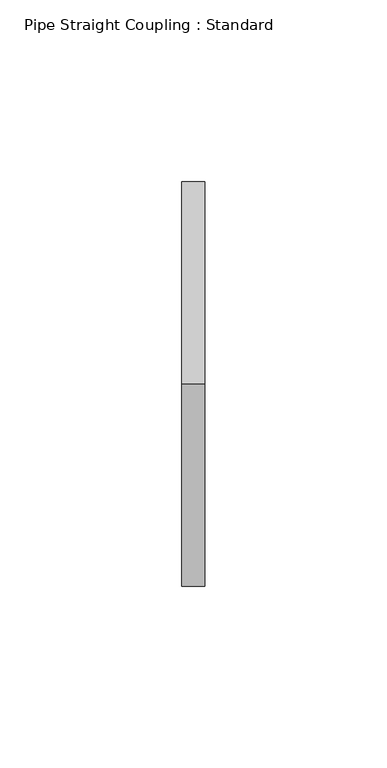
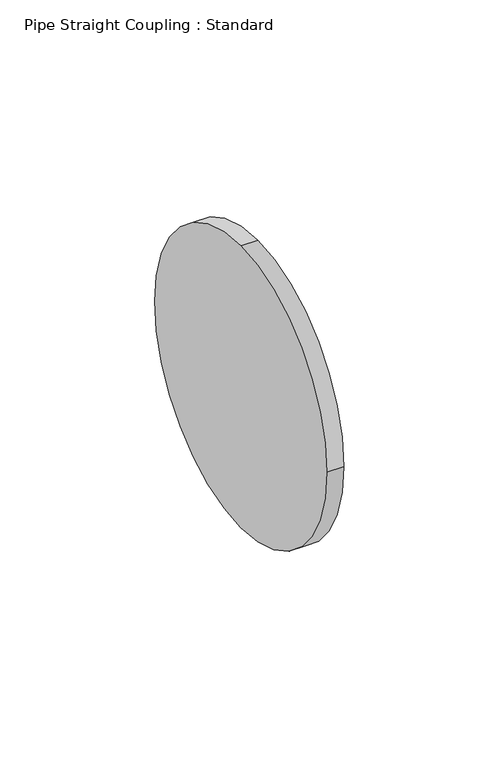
"""IFC4 building model written with IfcOpenShell, lengths in millimetres: pipe fitting geometry, Pipe Straight Coupling : Standard."""

from ifc_helpers import new_model, si_unit, point, frame, origin, origin_2d, place, context, project, spatial, circle_curve, trimmed, segment, composite_curve, outline, extrude, source, transform, mapped, element, save


def pipe_straight_coupling_standard_a74dfd1f(model_context):
    return source(origin(), model_context, "Body", "SweptSolid", [
        extrude(outline(composite_curve([segment(trimmed(circle_curve(origin_2d(), 55.5625), [point((0.0, 55.5625))], [point((55.5625, 0.0))], False, "CARTESIAN"), True, "CONTINUOUS"), segment(trimmed(circle_curve(origin_2d(), 55.5625), [point((55.5625, 0.0))], [point((0.0, -55.5625))], False, "CARTESIAN"), True, "CONTINUOUS"), segment(trimmed(circle_curve(origin_2d(), 55.5625), [point((0.0, -55.5625))], [point((-55.5625, 0.0))], False, "CARTESIAN"), True, "CONTINUOUS"), segment(trimmed(circle_curve(origin_2d(), 55.5625), [point((-55.5625, 0.0))], [point((0.0, 55.5625))], False, "CARTESIAN"), True, "CONTINUOUS")], self_intersect=False)), frame((-3.175, 0.0, 0.0), z_axis=(1.0, 0.0, 0.0), x_axis=(0.0, 1.0, 0.0)), (0.0, 0.0, 1.0), 6.35),
        extrude(outline(composite_curve([segment(trimmed(circle_curve(origin_2d(), 55.5625), [point((0.0, 55.5625))], [point((55.5625, 0.0))], False, "CARTESIAN"), True, "CONTINUOUS"), segment(trimmed(circle_curve(origin_2d(), 55.5625), [point((55.5625, 0.0))], [point((0.0, -55.5625))], False, "CARTESIAN"), True, "CONTINUOUS"), segment(trimmed(circle_curve(origin_2d(), 55.5625), [point((0.0, -55.5625))], [point((-55.5625, 0.0))], False, "CARTESIAN"), True, "CONTINUOUS"), segment(trimmed(circle_curve(origin_2d(), 55.5625), [point((-55.5625, 0.0))], [point((0.0, 55.5625))], False, "CARTESIAN"), True, "CONTINUOUS")], self_intersect=False)), frame((-3.175, 0.0, 0.0), z_axis=(1.0, 0.0, 0.0), x_axis=(0.0, 1.0, 0.0)), (0.0, 0.0, 1.0), 6.35),
    ])


if __name__ == "__main__":
    model = new_model("IFC4")
    model_context = context("Model", 3, world=origin())
    ifc_project = project(units=[si_unit("LENGTHUNIT", "METRE", prefix="MILLI")], contexts=[model_context])
    site = spatial("IfcSite", under=ifc_project)
    building = spatial("IfcBuilding", under=site)
    placement = place(None, origin())
    pipe_straight_coupling_standard_shape = pipe_straight_coupling_standard_a74dfd1f(model_context)
    element("IfcPipeFitting", 1, ObjectType="Pipe Straight Coupling : Standard", at=placement, inside=building, context=model_context, shape_type="MappedRepresentation", body=[
        mapped(pipe_straight_coupling_standard_shape, transform((0.0, 0.0, 0.0), x_axis=(1.0, 0.0, 0.0), y_axis=(0.0, 1.0, 0.0), z_axis=(0.0, 0.0, 1.0))),
    ])
    save(model, "model.ifc")
